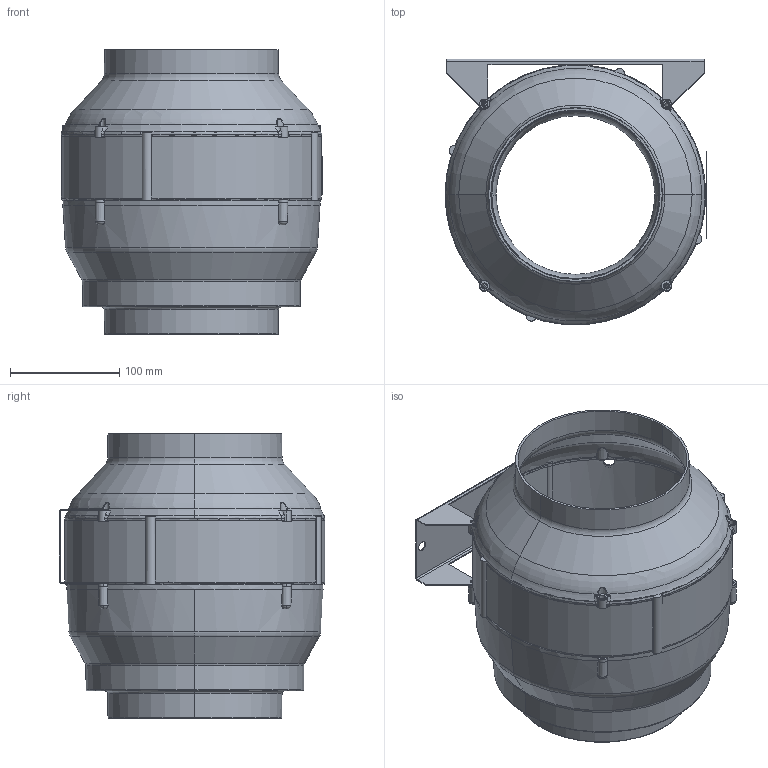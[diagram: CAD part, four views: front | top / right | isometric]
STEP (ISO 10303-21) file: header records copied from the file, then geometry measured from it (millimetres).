
FILE_DESCRIPTION (( 'STEP AP203' ), '1' );
FILE_NAME ('125327-00_EL160LE201.STEP', '2013-10-01T13:41:59', ( '' ), ( '' ), 'SwSTEP 2.0', 'SolidWorks 2012', '' );
FILE_SCHEMA (( 'CONFIG_CONTROL_DESIGN' ));
Length unit declared in the file: millimetre
Products named in the file (1): 125327-00_EL160LE201
Bounding box: 239.16 x 242.77 x 260 mm (x, y, z)
Surface area: 432606.3 mm2 (no closed solid volume)
Topology: 0 solids, 21 shells, 387 faces, 1419 edges, 1024 vertices
Faces by surface type: cylinder 113, plane 75, torus 75, cone 65, bspline 59
Entity records: 20952 total; most frequent: CARTESIAN_POINT 9552, ORIENTED_EDGE 2302, DIRECTION 2232, EDGE_CURVE 1419, VERTEX_POINT 1024, AXIS2_PLACEMENT_3D 916, CIRCLE 587, EDGE_LOOP 436
